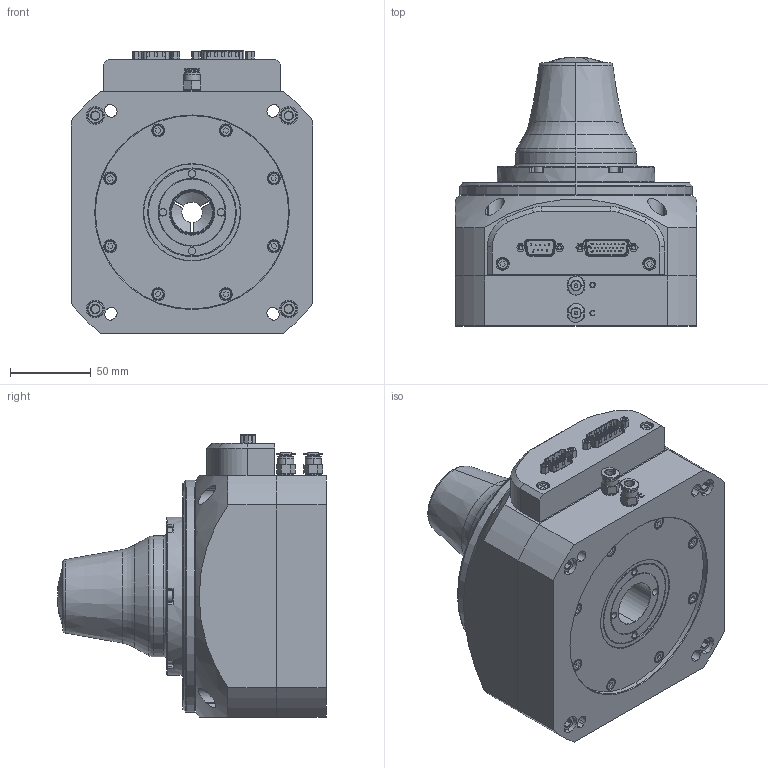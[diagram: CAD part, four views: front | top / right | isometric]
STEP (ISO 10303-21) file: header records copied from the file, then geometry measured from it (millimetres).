
FILE_DESCRIPTION (( 'STEP AP214' ), '1' );
FILE_NAME ('RTS-150-5C-EXPORT REV 1.STEP', '2025-04-04T13:59:59', ( 'lab' ), ( '' ), 'SwSTEP 2.0', 'SolidWorks 2018', '' );
FILE_SCHEMA (( 'AUTOMOTIVE_DESIGN' ));
Length unit declared in the file: millimetre
Products named in the file (14): 1000002_file_export10; 1000013_file_export22; 1000012_file_export21; 1000004_file_export5; 1000009_file_export0; 1000011_file_export24; 5C Collet 0.25_file_export3; RTS-150-EXPORT_file_export4; 1000003_file_export12; 1000007_file_export2; RTS-150-5C-EXPORT REV 1; 1000001_file_export8; 1000005_file_export9; 1000010_file_export13
Assembly tree (25 placements, depth 3):
  RTS-150-5C-EXPORT REV 1
    RTS-150-EXPORT_file_export4
      1000001_file_export8
      1000002_file_export10
      1000003_file_export12  x4
      1000004_file_export5
      1000005_file_export9
    1000007_file_export2
    5C Collet 0.25_file_export3
    1000009_file_export0
    1000010_file_export13
    1000011_file_export24  x6
    1000012_file_export21  x4
    1000013_file_export22  x2
Bounding box: 150 x 166.51 x 175.2 mm (x, y, z)
Volume: 2043964.9 mm3; surface area: 300965.8 mm2
Topology: 73 solids, 85 shells, 2240 faces, 5077 edges, 3135 vertices
Faces by surface type: plane 919, cylinder 604, cone 440, bspline 240, torus 30, sphere 7
Entity records: 106236 total; most frequent: CARTESIAN_POINT 57749, ORIENTED_EDGE 8674, DIRECTION 8483, EDGE_CURVE 4337, AXIS2_PLACEMENT_3D 3092, VERTEX_POINT 2755, LINE 2299, VECTOR 2299
